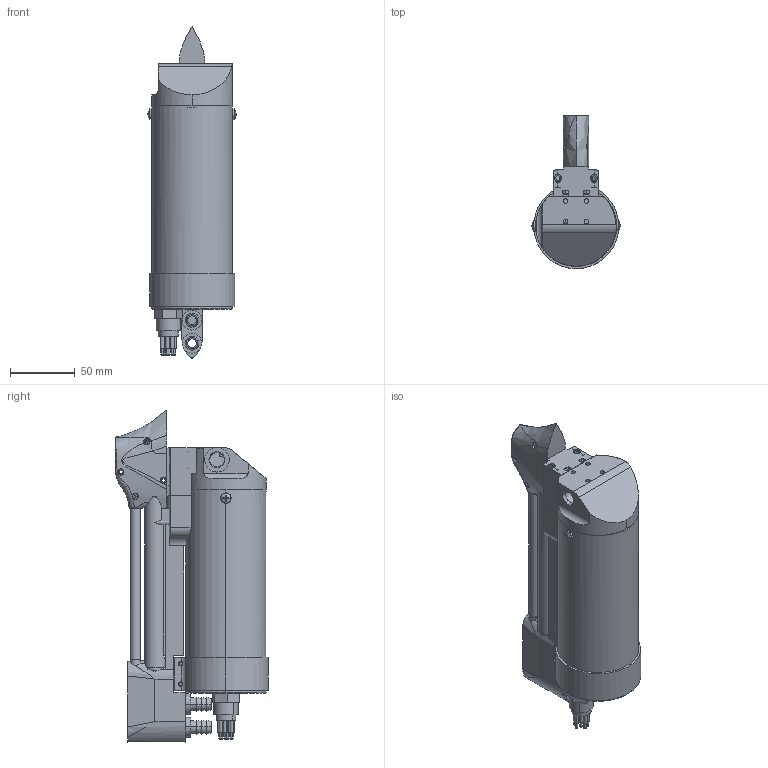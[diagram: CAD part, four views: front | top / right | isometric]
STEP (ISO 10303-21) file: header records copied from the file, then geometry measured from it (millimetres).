
FILE_DESCRIPTION (( 'STEP AP203' ), '1' );
FILE_NAME ('GPCTD 300M MCBH.STEP', '2026-07-09T17:00:42', ( '' ), ( '' ), 'SwSTEP 2.0', 'SolidWorks 2025', '' );
FILE_SCHEMA (( 'CONFIG_CONTROL_DESIGN' ));
Length unit declared in the file: inch
Products named in the file (1): GPCTD 300M MCBH
Bounding box: 67.99 x 118.14 x 256.43 mm (x, y, z)
Surface area: 102607.6 mm2 (no closed solid volume)
Topology: 0 solids, 50 shells, 493 faces, 1521 edges, 1034 vertices
Faces by surface type: plane 196, cylinder 194, cone 57, bspline 20, torus 14, sphere 12
Entity records: 23674 total; most frequent: CARTESIAN_POINT 10442, DIRECTION 2790, ORIENTED_EDGE 2475, EDGE_CURVE 1485, AXIS2_PLACEMENT_3D 1042, VERTEX_POINT 1018, VECTOR 706, LINE 706
